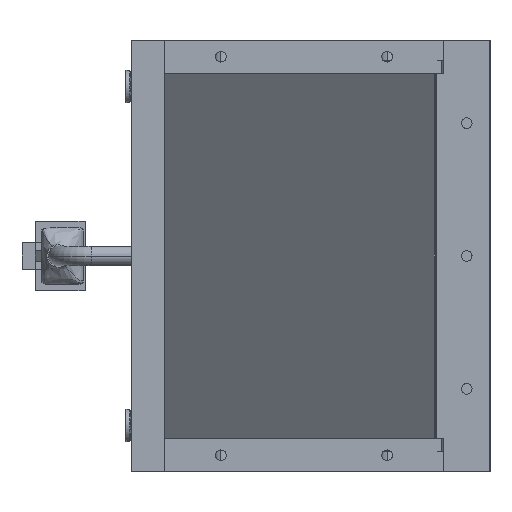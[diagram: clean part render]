
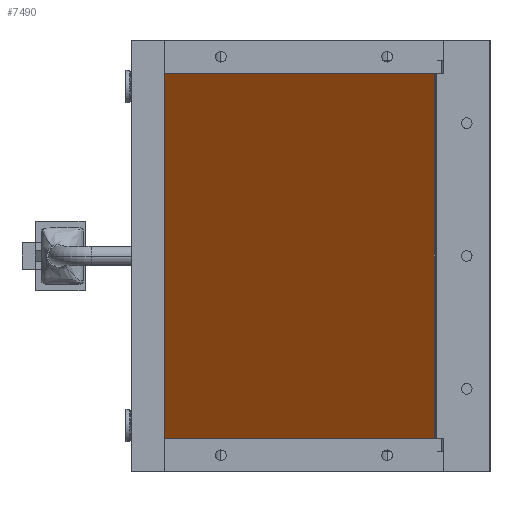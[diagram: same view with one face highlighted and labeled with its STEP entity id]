
A CAD part, left-side view. The second image highlights one B-rep face of the part: STEP entity #7490.
In plain terms, the highlighted planar face has unit normal (-0.707, 0.707, 0).
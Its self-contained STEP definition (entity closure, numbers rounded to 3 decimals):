
#344 = DIRECTION ( 'NONE',  ( -0.707, 0.707, 0. ) ) ;
#507 = ORIENTED_EDGE ( 'NONE', *, *, #28522, .T. ) ;
#707 = DIRECTION ( 'NONE',  ( 0.707, 0.707, 0. ) ) ;
#1285 = LINE ( 'NONE', #29034, #28464 ) ;
#1294 = DIRECTION ( 'NONE',  ( 0., 0., -1. ) ) ;
#1760 = VERTEX_POINT ( 'NONE', #17440 ) ;
#2009 = ORIENTED_EDGE ( 'NONE', *, *, #29708, .T. ) ;
#2571 = LINE ( 'NONE', #34015, #14049 ) ;
#2617 = VECTOR ( 'NONE', #707, 1000. ) ;
#3258 = FACE_OUTER_BOUND ( 'NONE', #33965, .T. ) ;
#3443 = LINE ( 'NONE', #5239, #2617 ) ;
#3791 = CARTESIAN_POINT ( 'NONE',  ( 21.707, 21.778, -28.5 ) ) ;
#3931 = VERTEX_POINT ( 'NONE', #34158 ) ;
#5239 = CARTESIAN_POINT ( 'NONE',  ( -19.659, -19.588, 29. ) ) ;
#6082 = VERTEX_POINT ( 'NONE', #33109 ) ;
#6282 = CARTESIAN_POINT ( 'NONE',  ( 21.354, 21.424, -29. ) ) ;
#6463 = EDGE_CURVE ( 'NONE', #11151, #3931, #8626, .T. ) ;
#6870 = CARTESIAN_POINT ( 'NONE',  ( 21.707, 21.778, 29. ) ) ;
#6949 = VECTOR ( 'NONE', #21189, 1000. ) ;
#7490 = ADVANCED_FACE ( 'NONE', ( #3258 ), #20523, .T. ) ;
#7635 = ORIENTED_EDGE ( 'NONE', *, *, #13902, .T. ) ;
#8110 = CARTESIAN_POINT ( 'NONE',  ( 1.024, 1.095, 0. ) ) ;
#8557 = VERTEX_POINT ( 'NONE', #9634 ) ;
#8626 = LINE ( 'NONE', #31128, #28883 ) ;
#9492 = DIRECTION ( 'NONE',  ( 0.5, 0.5, 0.707 ) ) ;
#9634 = CARTESIAN_POINT ( 'NONE',  ( -19.659, -19.588, 28.5 ) ) ;
#11151 = VERTEX_POINT ( 'NONE', #20799 ) ;
#11406 = CARTESIAN_POINT ( 'NONE',  ( -19.305, -19.234, 29. ) ) ;
#13902 = EDGE_CURVE ( 'NONE', #32936, #24100, #29764, .T. ) ;
#14049 = VECTOR ( 'NONE', #18099, 1000. ) ;
#14610 = EDGE_CURVE ( 'NONE', #1760, #6082, #31312, .T. ) ;
#15489 = EDGE_CURVE ( 'NONE', #3931, #32936, #15846, .T. ) ;
#15783 = DIRECTION ( 'NONE',  ( 0., 0., 1. ) ) ;
#15846 = LINE ( 'NONE', #6870, #26600 ) ;
#16115 = CARTESIAN_POINT ( 'NONE',  ( -19.393, -19.323, -28.875 ) ) ;
#16185 = DIRECTION ( 'NONE',  ( -0.5, -0.5, -0.707 ) ) ;
#16495 = VECTOR ( 'NONE', #16185, 1000. ) ;
#17440 = CARTESIAN_POINT ( 'NONE',  ( -19.305, -19.234, -29. ) ) ;
#17554 = CARTESIAN_POINT ( 'NONE',  ( -19.393, -19.323, 28.875 ) ) ;
#17878 = DIRECTION ( 'NONE',  ( 0.5, 0.5, -0.707 ) ) ;
#17931 = VERTEX_POINT ( 'NONE', #11406 ) ;
#18099 = DIRECTION ( 'NONE',  ( -0.707, -0.707, 0. ) ) ;
#18434 = DIRECTION ( 'NONE',  ( 0.707, 0.707, 0. ) ) ;
#18683 = ORIENTED_EDGE ( 'NONE', *, *, #15489, .T. ) ;
#19365 = ORIENTED_EDGE ( 'NONE', *, *, #6463, .T. ) ;
#20523 = PLANE ( 'NONE',  #26313 ) ;
#20799 = CARTESIAN_POINT ( 'NONE',  ( 21.354, 21.424, 29. ) ) ;
#21189 = DIRECTION ( 'NONE',  ( -0.5, -0.5, 0.707 ) ) ;
#24100 = VERTEX_POINT ( 'NONE', #6282 ) ;
#24643 = ORIENTED_EDGE ( 'NONE', *, *, #27041, .T. ) ;
#26313 = AXIS2_PLACEMENT_3D ( 'NONE', #8110, #344, #18434 ) ;
#26600 = VECTOR ( 'NONE', #1294, 1000. ) ;
#27041 = EDGE_CURVE ( 'NONE', #8557, #17931, #29989, .T. ) ;
#27349 = EDGE_CURVE ( 'NONE', #6082, #8557, #1285, .T. ) ;
#27486 = ORIENTED_EDGE ( 'NONE', *, *, #27349, .T. ) ;
#28338 = VECTOR ( 'NONE', #9492, 1000. ) ;
#28464 = VECTOR ( 'NONE', #15783, 1000. ) ;
#28522 = EDGE_CURVE ( 'NONE', #17931, #11151, #3443, .T. ) ;
#28883 = VECTOR ( 'NONE', #17878, 1000. ) ;
#29034 = CARTESIAN_POINT ( 'NONE',  ( -19.659, -19.588, 29. ) ) ;
#29708 = EDGE_CURVE ( 'NONE', #24100, #1760, #2571, .T. ) ;
#29764 = LINE ( 'NONE', #29980, #16495 ) ;
#29980 = CARTESIAN_POINT ( 'NONE',  ( 21.442, 21.513, -28.875 ) ) ;
#29989 = LINE ( 'NONE', #17554, #28338 ) ;
#31128 = CARTESIAN_POINT ( 'NONE',  ( 21.442, 21.513, 28.875 ) ) ;
#31312 = LINE ( 'NONE', #16115, #6949 ) ;
#32936 = VERTEX_POINT ( 'NONE', #3791 ) ;
#33109 = CARTESIAN_POINT ( 'NONE',  ( -19.659, -19.588, -28.5 ) ) ;
#33872 = ORIENTED_EDGE ( 'NONE', *, *, #14610, .T. ) ;
#33965 = EDGE_LOOP ( 'NONE', ( #18683, #7635, #2009, #33872, #27486, #24643, #507, #19365 ) ) ;
#34015 = CARTESIAN_POINT ( 'NONE',  ( -19.659, -19.588, -29. ) ) ;
#34158 = CARTESIAN_POINT ( 'NONE',  ( 21.707, 21.778, 28.5 ) ) ;
